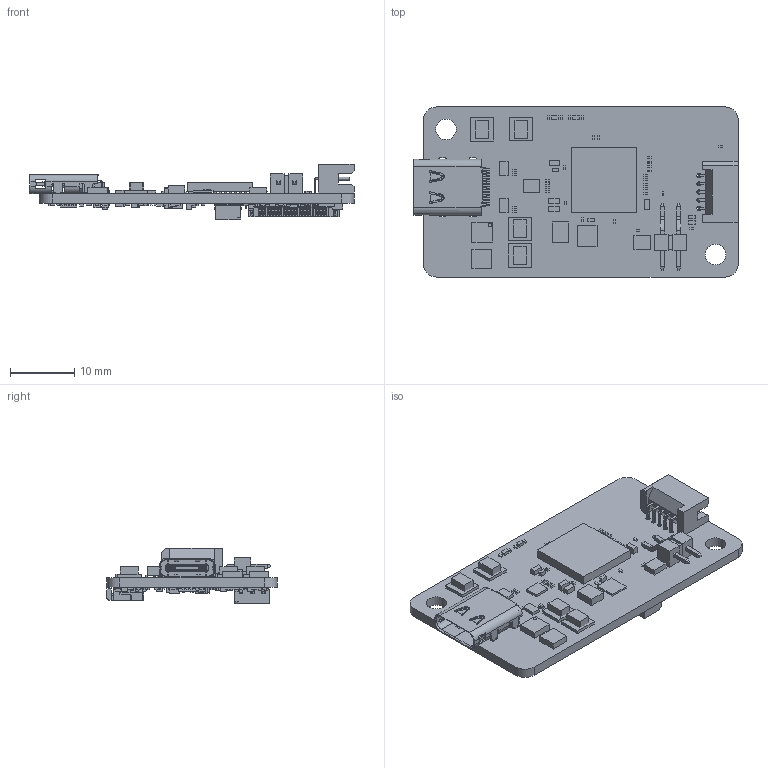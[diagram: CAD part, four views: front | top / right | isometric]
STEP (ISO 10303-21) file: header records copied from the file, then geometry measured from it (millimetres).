
FILE_DESCRIPTION(/* description */ (''),/* implementation_level */ '2;1');
FILE_NAME(/* name */ 'PCB4405C.step',/* time_stamp */ '2024-06-25T10:54:17+02:00',/* author */ (''),/* organization */ (''),/* preprocessor_version */ 'ST-DEVELOPER v19.2',/* originating_system */ 'Autodesk Translation Framework v12.6.0.85',/* authorisation */ '');
FILE_SCHEMA (('AUTOMOTIVE_DESIGN { 1 0 10303 214 3 1 1 }'));
Products named in the file (378): (Unsaved); PCB4405C; Open CASCADE STEP translator 7.5 1; Open CASCADE STEP translator 7.5 2; Open CASCADE STEP translator 7.5 3; Open CASCADE STEP translator 7.5 4; Open CASCADE STEP translator 7.5 5; Open CASCADE STEP translator 7.5 6; Open CASCADE STEP translator 7.5 7; Open CASCADE STEP translator 7.5 8; Open CASCADE STEP translator 7.5 9; Open CASCADE STEP translator 7.5 10; Open CASCADE STEP translator 7.5 11; Open CASCADE STEP translator 7.5 12; Open CASCADE STEP translator 7.5 13; Open CASCADE STEP translator 7.5 14; Open CASCADE STEP translator 7.5 15; Open CASCADE STEP translator 7.5 16; Open CASCADE STEP translator 7.5 17; Open CASCADE STEP translator 7.5 18; Open CASCADE STEP translator 7.5 19; Open CASCADE STEP translator 7.5 20; Open CASCADE STEP translator 7.5 21; Open CASCADE STEP translator 7.5 22; Open CASCADE STEP translator 7.5 23; Open CASCADE STEP translator 7.5 24; Open CASCADE STEP translator 7.5 25; Open CASCADE STEP translator 7.5 26; Open CASCADE STEP translator 7.5 31; Open CASCADE STEP translator 7.5 32; Open CASCADE STEP translator 7.5 34; Open CASCADE STEP translator 7.5 35; Open CASCADE STEP translator 7.5 36; Open CASCADE STEP translator 7.5 37; Open CASCADE STEP translator 7.5 38; Open CASCADE STEP translator 7.5 39; Open CASCADE STEP translator 7.5 40; Open CASCADE STEP translator 7.5 41; Open CASCADE STEP translator 7.5 42; Open CASCADE STEP translator 7.5 43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
Assembly tree (377 placements, depth 3):
  (Unsaved)
    PCB4405C
      Open CASCADE STEP translator 7.5 1
      Open CASCADE STEP translator 7.5 2
      Open CASCADE STEP translator 7.5 3
      Open CASCADE STEP translator 7.5 4
      Open CASCADE STEP translator 7.5 5
      Open CASCADE STEP translator 7.5 6
      Open CASCADE STEP translator 7.5 7
      Open CASCADE STEP translator 7.5 8
      Open CASCADE STEP translator 7.5 9
      Open CASCADE STEP translator 7.5 10
      Open CASCADE STEP translator 7.5 11
      Open CASCADE STEP translator 7.5 12
      Open CASCADE STEP translator 7.5 13
      Open CASCADE STEP translator 7.5 14
      Open CASCADE STEP translator 7.5 15
      Open CASCADE STEP translator 7.5 16
      Open CASCADE STEP translator 7.5 17
      Open CASCADE STEP translator 7.5 18
      Open CASCADE STEP translator 7.5 19
      Open CASCADE STEP translator 7.5 20
      Open CASCADE STEP translator 7.5 21
      Open CASCADE STEP translator 7.5 22
      Open CASCADE STEP translator 7.5 23
      Open CASCADE STEP translator 7.5 24
      Open CASCADE STEP translator 7.5 25
      Open CASCADE STEP translator 7.5 26
      Open CASCADE STEP translator 7.5 31
      Open CASCADE STEP translator 7.5 32
      Open CASCADE STEP translator 7.5 34
      Open CASCADE STEP translator 7.5 35
      Open CASCADE STEP translator 7.5 36
      Open CASCADE STEP translator 7.5 37
      Open CASCADE STEP translator 7.5 38
      Open CASCADE STEP translator 7.5 39
      Open CASCADE STEP translator 7.5 40
      Open CASCADE STEP translator 7.5 41
      Open CASCADE STEP translator 7.5 42
      Open CASCADE STEP translator 7.5 43
      Open CASCADE STEP translator 7.5 44
      Open CASCADE STEP translator 7.5 45
      Open CASCADE STEP translator 7.5 46
      Open CASCADE STEP translator 7.5 47
      Open CASCADE STEP translator 7.5 48
      Open CASCADE STEP translator 7.5 49
      Open CASCADE STEP translator 7.5 50
      Open CASCADE STEP translator 7.5 51
      Open CASCADE STEP translator 7.5 52
      Open CASCADE STEP translator 7.5 53
      Open CASCADE STEP translator 7.5 54
      Open CASCADE STEP translator 7.5 55
      Open CASCADE STEP translator 7.5 56
      Open CASCADE STEP translator 7.5 57
      Open CASCADE STEP translator 7.5 58
      Open CASCADE STEP translator 7.5 59
      Open CASCADE STEP translator 7.5 60
      Open CASCADE STEP translator 7.5 61
      Open CASCADE STEP translator 7.5 62
      Open CASCADE STEP translator 7.5 63
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Bounding box: 50.49 x 26.5 x 8.58 mm (x, y, z)
Volume: 2768.5 mm3; surface area: 5823.7 mm2
Topology: 430 solids, 431 shells, 5622 faces, 14560 edges, 9442 vertices
Faces by surface type: plane 4581, cylinder 756, sphere 167, cone 76, bspline 34, torus 8
Full cylindrical faces by diameter (mm): 0.45 x14, 0.457 x5, 0.5 x2, 0.65 x5, 3.2 x2
Entity records: 182162 total; most frequent: CARTESIAN_POINT 33174, DIRECTION 28629, ORIENTED_EDGE 28420, EDGE_CURVE 14222, LINE 12245, VECTOR 12245, VERTEX_POINT 9442, AXIS2_PLACEMENT_3D 8192
